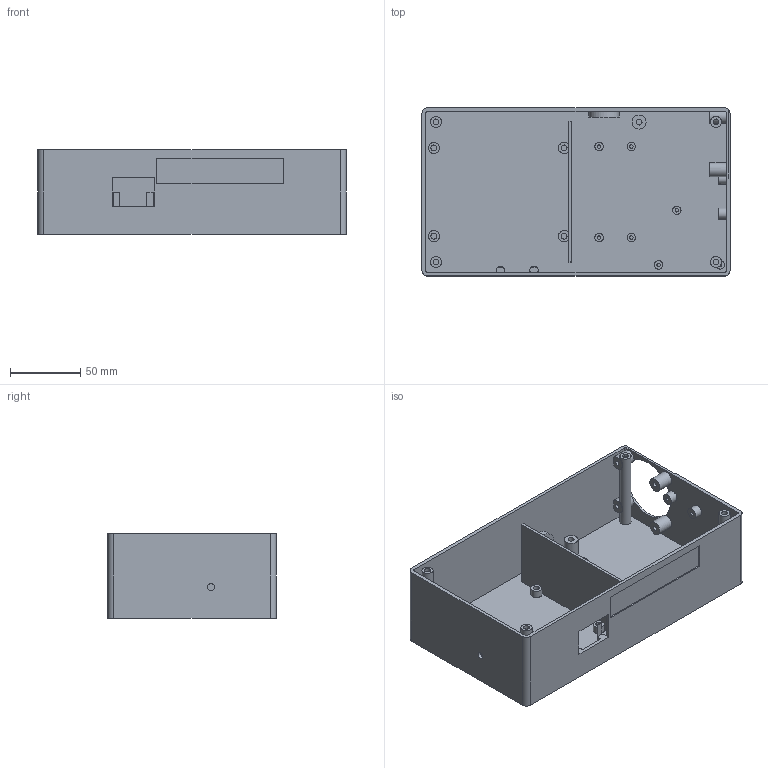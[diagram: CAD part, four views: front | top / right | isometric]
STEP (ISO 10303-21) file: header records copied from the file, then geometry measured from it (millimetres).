
FILE_DESCRIPTION(('Open CASCADE Model'),'2;1');
FILE_NAME('Open CASCADE Shape Model','2026-11-20T16:44:57',('Author'),( 'Open CASCADE'),'Open CASCADE STEP processor 7.9','Open CASCADE 7.9' ,'Unknown');
FILE_SCHEMA(('AUTOMOTIVE_DESIGN { 1 0 10303 214 1 1 1 1 }'));
Length unit declared in the file: millimetre
Products named in the file (1): Open CASCADE STEP translator 7.9 1
Bounding box: 220 x 120 x 60 mm (x, y, z)
Volume: 181649.7 mm3; surface area: 148077.8 mm2
Topology: 1 solids, 1 shells, 157 faces, 342 edges, 224 vertices
Faces by surface type: plane 89, cylinder 68
Full cylindrical faces by diameter (mm): 2.5 x9, 3.3 x4, 4.2 x8, 4.3 x1, 4.5 x4, 5 x1, 6 x6, 8 x8, 10 x5, 16.3 x1, 22 x1, 45.6 x1
Entity records: 11320 total; most frequent: CARTESIAN_POINT 4196, DIRECTION 1358, ORIENTED_EDGE 684, PCURVE 684, DEFINITIONAL_REPRESENTATION 684, LINE 574, VECTOR 574, EDGE_CURVE 342
